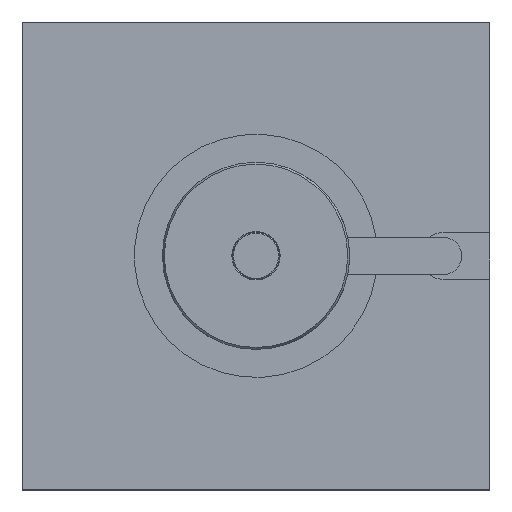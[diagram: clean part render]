
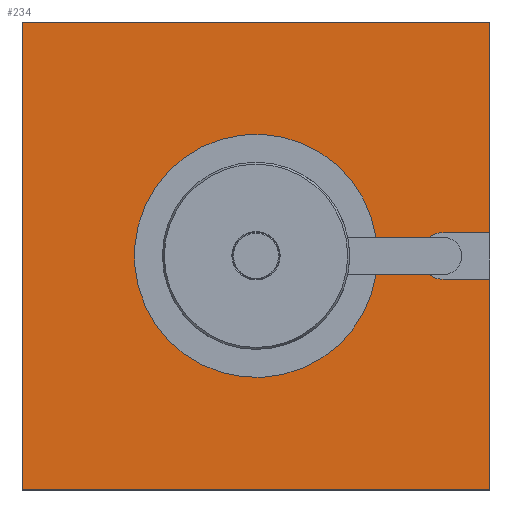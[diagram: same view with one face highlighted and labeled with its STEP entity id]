
A CAD part, top view. The second image highlights one B-rep face of the part: STEP entity #234.
In plain terms, the highlighted planar face has unit normal (0, 0, 1).
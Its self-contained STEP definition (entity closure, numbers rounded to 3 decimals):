
#234 = ADVANCED_FACE( '', ( #542 ), #543, .T. );
#542 = FACE_OUTER_BOUND( '', #954, .T. );
#543 = PLANE( '', #955 );
#954 = EDGE_LOOP( '', ( #1578, #1579, #1580, #1581, #1582, #1583, #1584, #1585, #1586, #1587, #1588, #1589 ) );
#955 = AXIS2_PLACEMENT_3D( '', #1590, #1591, #1592 );
#1578 = ORIENTED_EDGE( '', *, *, #2349, .F. );
#1579 = ORIENTED_EDGE( '', *, *, #2350, .F. );
#1580 = ORIENTED_EDGE( '', *, *, #2351, .F. );
#1581 = ORIENTED_EDGE( '', *, *, #2352, .F. );
#1582 = ORIENTED_EDGE( '', *, *, #2246, .T. );
#1583 = ORIENTED_EDGE( '', *, *, #2353, .T. );
#1584 = ORIENTED_EDGE( '', *, *, #2354, .T. );
#1585 = ORIENTED_EDGE( '', *, *, #2346, .T. );
#1586 = ORIENTED_EDGE( '', *, *, #2250, .T. );
#1587 = ORIENTED_EDGE( '', *, *, #2326, .F. );
#1588 = ORIENTED_EDGE( '', *, *, #2355, .F. );
#1589 = ORIENTED_EDGE( '', *, *, #2237, .F. );
#1590 = CARTESIAN_POINT( '', ( -125., -125., 0. ) );
#1591 = DIRECTION( '', ( 0., 0., 1. ) );
#1592 = DIRECTION( '', ( 0., -1., 0. ) );
#2237 = EDGE_CURVE( '', #2614, #2616, #2617, .T. );
#2246 = EDGE_CURVE( '', #2631, #2632, #2633, .T. );
#2250 = EDGE_CURVE( '', #2640, #2638, #2641, .T. );
#2326 = EDGE_CURVE( '', #2765, #2638, #2767, .T. );
#2346 = EDGE_CURVE( '', #2796, #2640, #2797, .T. );
#2349 = EDGE_CURVE( '', #2800, #2614, #2801, .T. );
#2350 = EDGE_CURVE( '', #2802, #2800, #2803, .T. );
#2351 = EDGE_CURVE( '', #2804, #2802, #2805, .T. );
#2352 = EDGE_CURVE( '', #2631, #2804, #2806, .T. );
#2353 = EDGE_CURVE( '', #2632, #2807, #2808, .T. );
#2354 = EDGE_CURVE( '', #2807, #2796, #2809, .T. );
#2355 = EDGE_CURVE( '', #2616, #2765, #2810, .T. );
#2614 = VERTEX_POINT( '', #3158 );
#2616 = VERTEX_POINT( '', #3161 );
#2617 = LINE( '', #3162, #3163 );
#2631 = VERTEX_POINT( '', #3181 );
#2632 = VERTEX_POINT( '', #3182 );
#2633 = LINE( '', #3183, #3184 );
#2638 = VERTEX_POINT( '', #3191 );
#2640 = VERTEX_POINT( '', #3194 );
#2641 = LINE( '', #3195, #3196 );
#2765 = VERTEX_POINT( '', #3358 );
#2767 = LINE( '', #3361, #3362 );
#2796 = VERTEX_POINT( '', #3399 );
#2797 = LINE( '', #3400, #3401 );
#2800 = VERTEX_POINT( '', #3405 );
#2801 = CIRCLE( '', #3406, 65. );
#2802 = VERTEX_POINT( '', #3407 );
#2803 = LINE( '', #3408, #3409 );
#2804 = VERTEX_POINT( '', #3410 );
#2805 = CIRCLE( '', #3411, 12.5 );
#2806 = LINE( '', #3412, #3413 );
#2807 = VERTEX_POINT( '', #3414 );
#2808 = LINE( '', #3415, #3416 );
#2809 = LINE( '', #3417, #3418 );
#2810 = CIRCLE( '', #3419, 12.5 );
#3158 = CARTESIAN_POINT( '', ( 64.226, -10., 0. ) );
#3161 = CARTESIAN_POINT( '', ( 92.5, -10., 0. ) );
#3162 = CARTESIAN_POINT( '', ( 0., -10., 0. ) );
#3163 = VECTOR( '', #3810, 1000. );
#3181 = CARTESIAN_POINT( '', ( 125., 12.5, 0. ) );
#3182 = CARTESIAN_POINT( '', ( 125., 125., 0. ) );
#3183 = CARTESIAN_POINT( '', ( 125., -125., 0. ) );
#3184 = VECTOR( '', #3821, 1000. );
#3191 = CARTESIAN_POINT( '', ( 125., -12.5, 0. ) );
#3194 = CARTESIAN_POINT( '', ( 125., -125., 0. ) );
#3195 = CARTESIAN_POINT( '', ( 125., -125., 0. ) );
#3196 = VECTOR( '', #3825, 1000. );
#3358 = CARTESIAN_POINT( '', ( 100., -12.5, 0. ) );
#3361 = CARTESIAN_POINT( '', ( 100., -12.5, 0. ) );
#3362 = VECTOR( '', #3937, 1000. );
#3399 = CARTESIAN_POINT( '', ( -125., -125., 0. ) );
#3400 = CARTESIAN_POINT( '', ( -125., -125., 0. ) );
#3401 = VECTOR( '', #3962, 1000. );
#3405 = CARTESIAN_POINT( '', ( 64.226, 10., 0. ) );
#3406 = AXIS2_PLACEMENT_3D( '', #3964, #3965, #3966 );
#3407 = CARTESIAN_POINT( '', ( 92.5, 10., 0. ) );
#3408 = CARTESIAN_POINT( '', ( 100., 10., 0. ) );
#3409 = VECTOR( '', #3967, 1000. );
#3410 = CARTESIAN_POINT( '', ( 100., 12.5, 0. ) );
#3411 = AXIS2_PLACEMENT_3D( '', #3968, #3969, #3970 );
#3412 = CARTESIAN_POINT( '', ( 148.185, 12.5, 0. ) );
#3413 = VECTOR( '', #3971, 1000. );
#3414 = CARTESIAN_POINT( '', ( -125., 125., 0. ) );
#3415 = CARTESIAN_POINT( '', ( 125., 125., 0. ) );
#3416 = VECTOR( '', #3972, 1000. );
#3417 = CARTESIAN_POINT( '', ( -125., 125., 0. ) );
#3418 = VECTOR( '', #3973, 1000. );
#3419 = AXIS2_PLACEMENT_3D( '', #3974, #3975, #3976 );
#3810 = DIRECTION( '', ( 1., 0., 0. ) );
#3821 = DIRECTION( '', ( 0., 1., 0. ) );
#3825 = DIRECTION( '', ( 0., 1., 0. ) );
#3937 = DIRECTION( '', ( 1., 0., 0. ) );
#3962 = DIRECTION( '', ( 1., 0., 0. ) );
#3964 = CARTESIAN_POINT( '', ( 0., 0., 0. ) );
#3965 = DIRECTION( '', ( 0., 0., 1. ) );
#3966 = DIRECTION( '', ( 1., 0., 0. ) );
#3967 = DIRECTION( '', ( -1., 0., 0. ) );
#3968 = CARTESIAN_POINT( '', ( 100., 0., 0. ) );
#3969 = DIRECTION( '', ( 0., 0., 1. ) );
#3970 = DIRECTION( '', ( 0., 1., 0. ) );
#3971 = DIRECTION( '', ( -1., 0., 0. ) );
#3972 = DIRECTION( '', ( -1., 0., 0. ) );
#3973 = DIRECTION( '', ( 0., -1., 0. ) );
#3974 = CARTESIAN_POINT( '', ( 100., 0., 0. ) );
#3975 = DIRECTION( '', ( 0., 0., 1. ) );
#3976 = DIRECTION( '', ( 0., 1., 0. ) );
